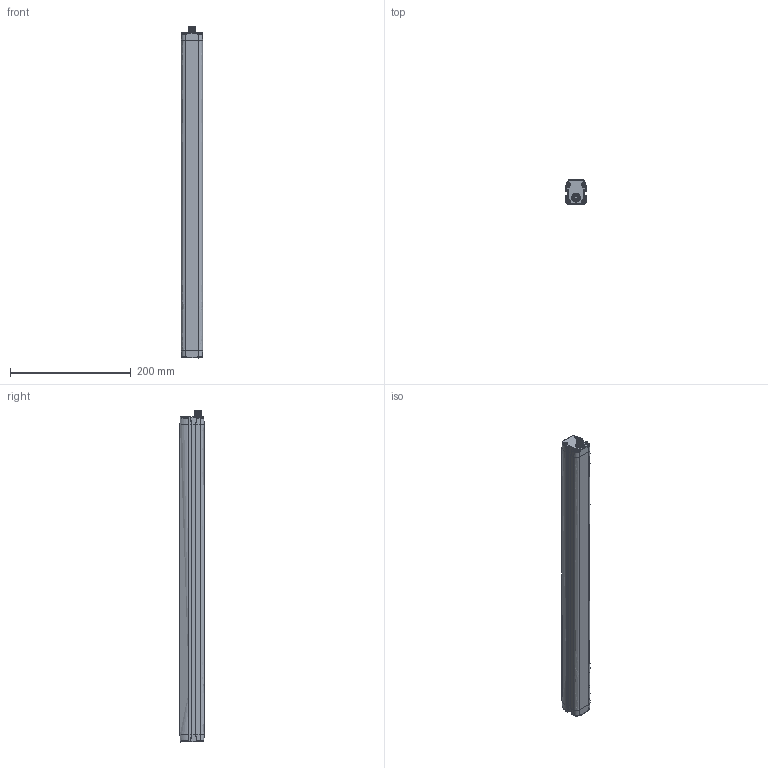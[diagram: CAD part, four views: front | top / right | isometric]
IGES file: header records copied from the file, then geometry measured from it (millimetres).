
Global section: file name: C:\Users\lrossetti\Desktop\AP006296_00_DSD-DS2_TX.igs; native system: NX V7.5; preprocessor: SIEMENS PLM Software NX 7.5; date: 20130508.161124; units: millimetre
Bounding box: 35 x 40.1 x 550.4 mm (x, y, z)
Surface area: 93575.9 mm2 (no closed solid volume)
Topology: 0 solids, 0 shells, 491 faces, 3132 edges, 3076 vertices
Faces by surface type: bspline 491
